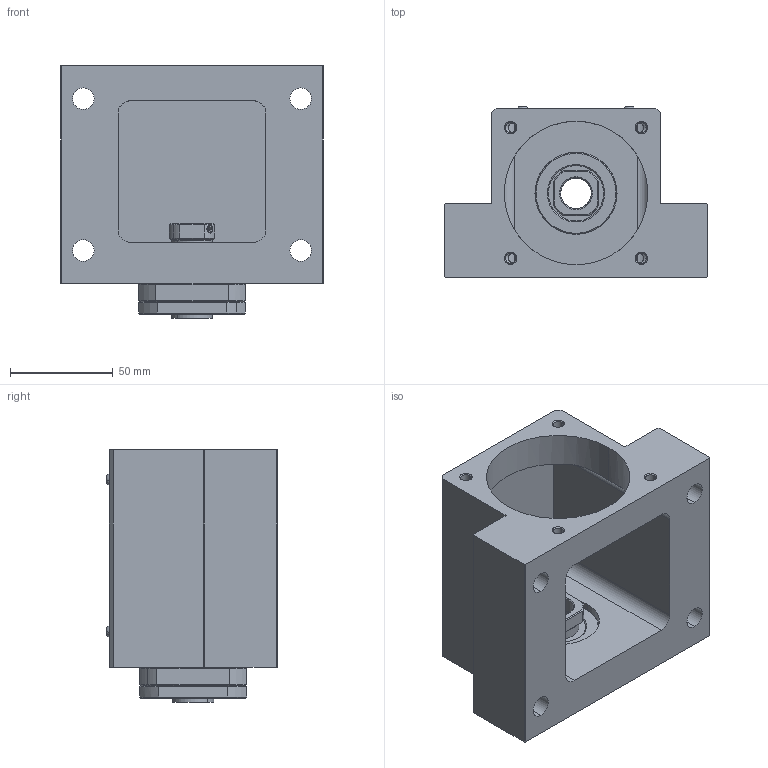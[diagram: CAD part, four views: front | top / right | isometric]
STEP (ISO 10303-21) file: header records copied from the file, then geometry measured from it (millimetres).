
FILE_DESCRIPTION (( 'STEP AP214' ), '1' );
FILE_NAME ('C-SBU-15-80.6.STEP', '2023-04-10T05:51:12', ( '' ), ( '' ), 'SwSTEP 2.0', 'SolidWorks 2021', '' );
FILE_SCHEMA (( 'AUTOMOTIVE_DESIGN' ));
Length unit declared in the file: millimetre
Products named in the file (6): socket head cap screw_ks_KS 1003 - M5 x 20 x 20-N; SBU-15-80.6 ACRYLE; C-SBU-15-80.6; SJU-15-M80 HOUSING; FK15B; M3-6
Assembly tree (11 placements, depth 2):
  C-SBU-15-80.6
    SJU-15-M80 HOUSING
    FK15B
    socket head cap screw_ks_KS 1003 - M5 x 20 x 20-N  x4
    SBU-15-80.6 ACRYLE
    M3-6  x4
Bounding box: 128 x 83.15 x 123 mm (x, y, z)
Volume: 434622.7 mm3; surface area: 110940.4 mm2
Topology: 11 solids, 22 shells, 785 faces, 1810 edges, 1071 vertices
Faces by surface type: plane 294, cylinder 209, cone 202, torus 80
Entity records: 18505 total; most frequent: CARTESIAN_POINT 3472, DIRECTION 3327, ORIENTED_EDGE 2832, EDGE_CURVE 1416, AXIS2_PLACEMENT_3D 1342, VERTEX_POINT 861, CIRCLE 711, EDGE_LOOP 709
